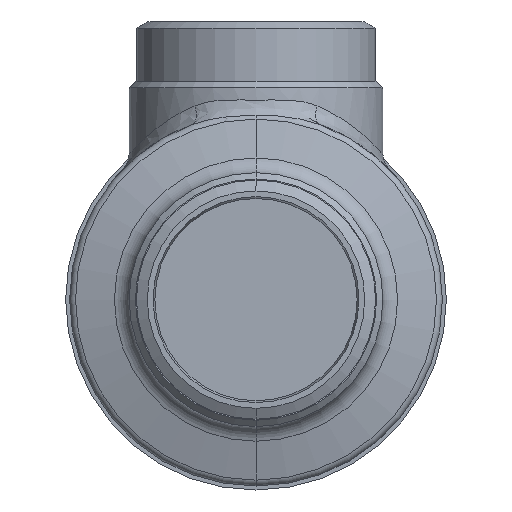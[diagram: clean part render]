
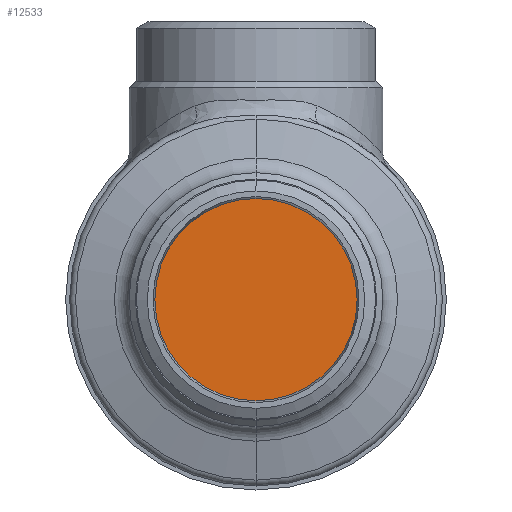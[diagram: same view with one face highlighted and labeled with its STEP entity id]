
A CAD part, front view. The second image highlights one B-rep face of the part: STEP entity #12533.
In plain terms, the highlighted planar face has unit normal (0, -1, 0).
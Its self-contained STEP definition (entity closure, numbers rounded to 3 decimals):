
#1806 = CARTESIAN_POINT ( 'NONE',  ( 0., -83., 25.5 ) ) ;
#2008 = CIRCLE ( 'NONE', #2009, 25.5 ) ;
#2009 = AXIS2_PLACEMENT_3D ( 'NONE', #2010, #2011, #2012 ) ;
#2010 = CARTESIAN_POINT ( 'NONE',  ( 0., -83., 0. ) ) ;
#2011 = DIRECTION ( 'NONE',  ( 0., -1., 0. ) ) ;
#2012 = DIRECTION ( 'NONE',  ( 0., 0., -1. ) ) ;
#2027 = CIRCLE ( 'NONE', #2028, 25.5 ) ;
#2028 = AXIS2_PLACEMENT_3D ( 'NONE', #2029, #2030, #2031 ) ;
#2029 = CARTESIAN_POINT ( 'NONE',  ( 0., -83., 0. ) ) ;
#2030 = DIRECTION ( 'NONE',  ( 0., -1., 0. ) ) ;
#2031 = DIRECTION ( 'NONE',  ( 0., 0., -1. ) ) ;
#6971 = CARTESIAN_POINT ( 'NONE',  ( 0., -83., -25.5 ) ) ;
#7563 = FACE_OUTER_BOUND ( 'NONE', #12302, .T. ) ;
#7564 = PLANE ( 'NONE',  #7565 ) ;
#7565 = AXIS2_PLACEMENT_3D ( 'NONE', #7566, #7567, #7568 ) ;
#7566 = CARTESIAN_POINT ( 'NONE',  ( 0., -83., 0. ) ) ;
#7567 = DIRECTION ( 'NONE',  ( 0., -1., 0. ) ) ;
#7568 = DIRECTION ( 'NONE',  ( 0., 0., -1. ) ) ;
#8338 = ORIENTED_EDGE ( 'NONE', *, *, #13300, .T. ) ;
#8830 = EDGE_CURVE ( 'NONE', #11708, #13094, #2027, .T. ) ;
#11708 = VERTEX_POINT ( 'NONE', #6971 ) ;
#11808 = ORIENTED_EDGE ( 'NONE', *, *, #8830, .T. ) ;
#12302 = EDGE_LOOP ( 'NONE', ( #11808, #8338 ) ) ;
#12533 = ADVANCED_FACE ( 'NONE', ( #7563 ), #7564, .T. ) ;
#13094 = VERTEX_POINT ( 'NONE', #1806 ) ;
#13300 = EDGE_CURVE ( 'NONE', #13094, #11708, #2008, .T. ) ;
